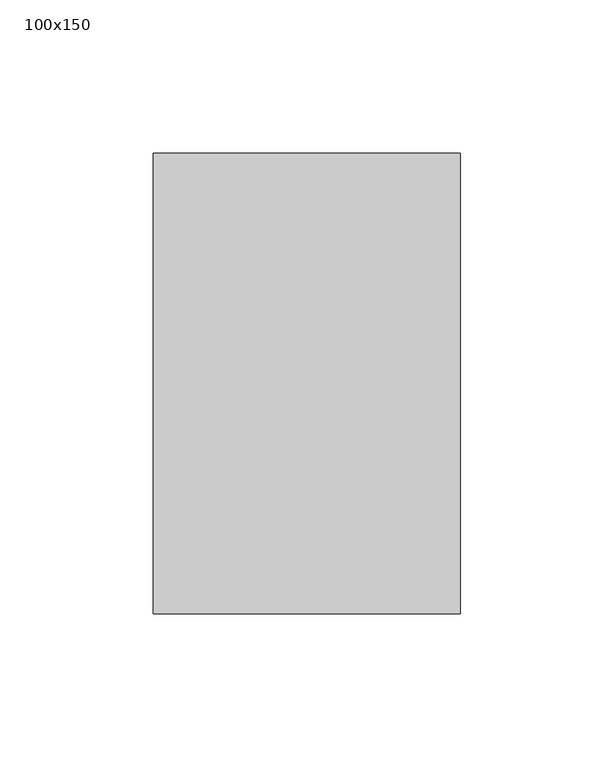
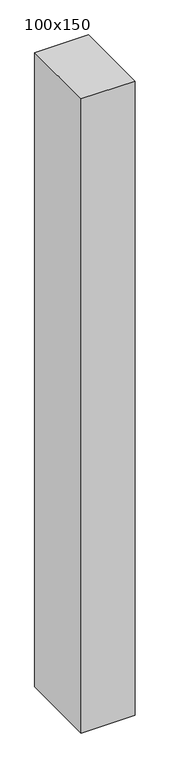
"""IFC4 building model written with IfcOpenShell, lengths in millimetres: member geometry, 長方形のマリオン : 100x150."""

from ifc_helpers import new_model, si_unit, frame, origin, place, context, project, spatial, polyline, outline, extrude, source, transform, mapped, element, save


def member_100x150_5209bdcb(model_context):
    return source(origin(), model_context, "Body", "SweptSolid", [
        extrude(outline(polyline([(50.0, 75.0), (50.0, -75.0), (-50.0, -75.0), (-50.0, 75.0), (50.0, 75.0)])), frame((0.0, 0.0, -1246.861911), z_axis=(0.0, 0.0, 1.0), x_axis=(1.0, 0.0, 0.0)), (0.0, 0.0, 1.0), 1246.861911),
    ])


if __name__ == "__main__":
    model = new_model("IFC4")
    model_context = context("Model", 3, world=origin())
    ifc_project = project(units=[si_unit("LENGTHUNIT", "METRE", prefix="MILLI")], contexts=[model_context])
    site = spatial("IfcSite", under=ifc_project)
    building = spatial("IfcBuilding", under=site)
    placement = place(None, origin())
    member_100x150_shape = member_100x150_5209bdcb(model_context)
    element("IfcMember", 1, ObjectType="長方形のマリオン : 100x150", at=placement, inside=building, context=model_context, shape_type="MappedRepresentation", body=[
        mapped(member_100x150_shape, transform((0.0, 0.0, 0.0), x_axis=(1.0, 0.0, 0.0), y_axis=(0.0, 1.0, 0.0), z_axis=(0.0, 0.0, 1.0))),
    ])
    save(model, "model.ifc")
